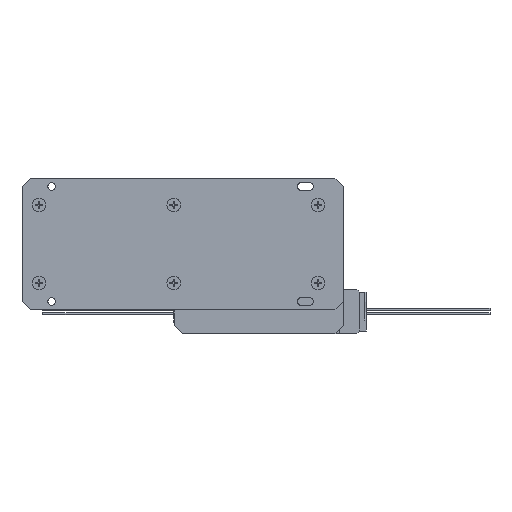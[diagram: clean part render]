
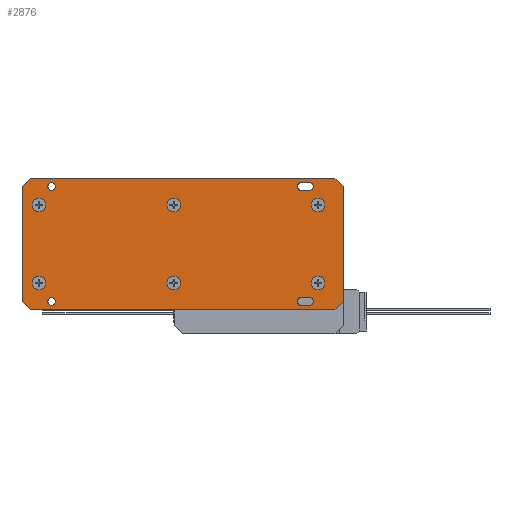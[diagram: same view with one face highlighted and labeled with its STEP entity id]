
A CAD part, front view. The second image highlights one B-rep face of the part: STEP entity #2876.
In plain terms, the highlighted planar face has unit normal (0, -1, 0).
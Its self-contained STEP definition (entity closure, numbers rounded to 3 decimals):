
#2876=ADVANCED_FACE('',(#6193,#6194,#6195,#6196,#6197,#6198,#6199,#6200,#6201,#6202,#6203),#6204,.F.);
#6193=FACE_OUTER_BOUND('',#10417,.T.);
#6194=FACE_BOUND('',#10418,.T.);
#6195=FACE_BOUND('',#10419,.T.);
#6196=FACE_BOUND('',#10420,.T.);
#6197=FACE_BOUND('',#10421,.T.);
#6198=FACE_BOUND('',#10422,.T.);
#6199=FACE_BOUND('',#10423,.T.);
#6200=FACE_BOUND('',#10424,.T.);
#6201=FACE_BOUND('',#10425,.T.);
#6202=FACE_BOUND('',#10426,.T.);
#6203=FACE_BOUND('',#10427,.T.);
#6204=PLANE('',#10428);
#10417=EDGE_LOOP('',(#22860,#22861,#22862,#22863,#22864,#22865,#22866,#22867));
#10418=EDGE_LOOP('',(#22868,#22869,#22870,#22871));
#10419=EDGE_LOOP('',(#22872,#22873,#22874,#22875));
#10420=EDGE_LOOP('',(#22876));
#10421=EDGE_LOOP('',(#22877));
#10422=EDGE_LOOP('',(#22878));
#10423=EDGE_LOOP('',(#22879));
#10424=EDGE_LOOP('',(#22880));
#10425=EDGE_LOOP('',(#22881));
#10426=EDGE_LOOP('',(#22882));
#10427=EDGE_LOOP('',(#22883));
#10428=AXIS2_PLACEMENT_3D('',#22884,#22885,#22886);
#22860=ORIENTED_EDGE('',*,*,#33007,.F.);
#22861=ORIENTED_EDGE('',*,*,#32844,.F.);
#22862=ORIENTED_EDGE('',*,*,#33017,.F.);
#22863=ORIENTED_EDGE('',*,*,#32759,.F.);
#22864=ORIENTED_EDGE('',*,*,#33015,.F.);
#22865=ORIENTED_EDGE('',*,*,#33012,.F.);
#22866=ORIENTED_EDGE('',*,*,#32787,.F.);
#22867=ORIENTED_EDGE('',*,*,#33010,.F.);
#22868=ORIENTED_EDGE('',*,*,#33019,.T.);
#22869=ORIENTED_EDGE('',*,*,#33034,.T.);
#22870=ORIENTED_EDGE('',*,*,#33026,.T.);
#22871=ORIENTED_EDGE('',*,*,#33023,.T.);
#22872=ORIENTED_EDGE('',*,*,#32855,.T.);
#22873=ORIENTED_EDGE('',*,*,#32781,.T.);
#22874=ORIENTED_EDGE('',*,*,#33032,.T.);
#22875=ORIENTED_EDGE('',*,*,#33029,.T.);
#22876=ORIENTED_EDGE('',*,*,#33036,.T.);
#22877=ORIENTED_EDGE('',*,*,#32791,.T.);
#22878=ORIENTED_EDGE('',*,*,#32776,.F.);
#22879=ORIENTED_EDGE('',*,*,#33038,.F.);
#22880=ORIENTED_EDGE('',*,*,#33039,.F.);
#22881=ORIENTED_EDGE('',*,*,#33040,.F.);
#22882=ORIENTED_EDGE('',*,*,#33041,.F.);
#22883=ORIENTED_EDGE('',*,*,#33042,.F.);
#22884=CARTESIAN_POINT('',(0.,0.0,0.0));
#22885=DIRECTION('',(-0.0,1.0,0.0));
#22886=DIRECTION('',(1.0,0.0,0.0));
#32759=EDGE_CURVE('',#40138,#40139,#40140,.T.);
#32776=EDGE_CURVE('',#40172,#40172,#40173,.T.);
#32781=EDGE_CURVE('',#40182,#40183,#40184,.T.);
#32787=EDGE_CURVE('',#40193,#40194,#40195,.T.);
#32791=EDGE_CURVE('',#40201,#40201,#40202,.T.);
#32844=EDGE_CURVE('',#40302,#40303,#40304,.T.);
#32855=EDGE_CURVE('',#40323,#40182,#40324,.T.);
#33007=EDGE_CURVE('',#40303,#40563,#40564,.T.);
#33010=EDGE_CURVE('',#40563,#40193,#40568,.T.);
#33012=EDGE_CURVE('',#40194,#40570,#40571,.T.);
#33015=EDGE_CURVE('',#40570,#40138,#40575,.T.);
#33017=EDGE_CURVE('',#40139,#40302,#40577,.T.);
#33019=EDGE_CURVE('',#40579,#40580,#40581,.T.);
#33023=EDGE_CURVE('',#40587,#40579,#40588,.T.);
#33026=EDGE_CURVE('',#40592,#40587,#40593,.T.);
#33029=EDGE_CURVE('',#40597,#40323,#40598,.T.);
#33032=EDGE_CURVE('',#40183,#40597,#40602,.T.);
#33034=EDGE_CURVE('',#40580,#40592,#40604,.T.);
#33036=EDGE_CURVE('',#40606,#40606,#40607,.T.);
#33038=EDGE_CURVE('',#40610,#40610,#40611,.T.);
#33039=EDGE_CURVE('',#40612,#40612,#40613,.T.);
#33040=EDGE_CURVE('',#40614,#40614,#40615,.T.);
#33041=EDGE_CURVE('',#40616,#40616,#40617,.T.);
#33042=EDGE_CURVE('',#40618,#40618,#40619,.T.);
#40138=VERTEX_POINT('',#51459);
#40139=VERTEX_POINT('',#51460);
#40140=LINE('',#51461,#51462);
#40172=VERTEX_POINT('',#51505);
#40173=CIRCLE('',#51506,4.0);
#40182=VERTEX_POINT('',#51519);
#40183=VERTEX_POINT('',#51520);
#40184=CIRCLE('',#51521,2.25);
#40193=VERTEX_POINT('',#51534);
#40194=VERTEX_POINT('',#51535);
#40195=LINE('',#51536,#51537);
#40201=VERTEX_POINT('',#51546);
#40202=CIRCLE('',#51547,2.25);
#40302=VERTEX_POINT('',#51691);
#40303=VERTEX_POINT('',#51692);
#40304=LINE('',#51693,#51694);
#40323=VERTEX_POINT('',#51721);
#40324=LINE('',#51722,#51723);
#40563=VERTEX_POINT('',#52089);
#40564=LINE('',#52090,#52091);
#40568=LINE('',#52097,#52098);
#40570=VERTEX_POINT('',#52101);
#40571=LINE('',#52102,#52103);
#40575=LINE('',#52109,#52110);
#40577=LINE('',#52113,#52114);
#40579=VERTEX_POINT('',#52117);
#40580=VERTEX_POINT('',#52118);
#40581=LINE('',#52119,#52120);
#40587=VERTEX_POINT('',#52129);
#40588=CIRCLE('',#52130,2.25);
#40592=VERTEX_POINT('',#52135);
#40593=LINE('',#52136,#52137);
#40597=VERTEX_POINT('',#52143);
#40598=CIRCLE('',#52144,2.25);
#40602=LINE('',#52149,#52150);
#40604=CIRCLE('',#52153,2.25);
#40606=VERTEX_POINT('',#52155);
#40607=CIRCLE('',#52156,2.25);
#40610=VERTEX_POINT('',#52159);
#40611=CIRCLE('',#52160,4.0);
#40612=VERTEX_POINT('',#52161);
#40613=CIRCLE('',#52162,4.0);
#40614=VERTEX_POINT('',#52163);
#40615=CIRCLE('',#52164,4.0);
#40616=VERTEX_POINT('',#52165);
#40617=CIRCLE('',#52166,4.0);
#40618=VERTEX_POINT('',#52167);
#40619=CIRCLE('',#52168,4.0);
#51459=CARTESIAN_POINT('',(157.8,0.0,34.0));
#51460=CARTESIAN_POINT('',(157.8,0.0,-34.0));
#51461=CARTESIAN_POINT('',(157.8,0.0,34.0));
#51462=VECTOR('',#63157,1.0);
#51505=CARTESIAN_POINT('',(-22.2,0.0,19.0));
#51506=AXIS2_PLACEMENT_3D('',#63184,#63185,#63186);
#51519=CARTESIAN_POINT('',(132.8,0.0,31.75));
#51520=CARTESIAN_POINT('',(132.8,0.0,36.25));
#51521=AXIS2_PLACEMENT_3D('',#63191,#63192,#63193);
#51534=CARTESIAN_POINT('',(-32.2,0.0,34.0));
#51535=CARTESIAN_POINT('',(-27.2,0.0,39.0));
#51536=CARTESIAN_POINT('',(-32.2,0.0,34.0));
#51537=VECTOR('',#63201,1.0);
#51546=CARTESIAN_POINT('',(-12.45,0.0,34.0));
#51547=AXIS2_PLACEMENT_3D('',#63205,#63206,#63207);
#51691=CARTESIAN_POINT('',(152.8,0.0,-39.0));
#51692=CARTESIAN_POINT('',(-27.2,0.0,-39.0));
#51693=CARTESIAN_POINT('',(152.8,0.0,-39.0));
#51694=VECTOR('',#63276,1.0);
#51721=CARTESIAN_POINT('',(137.8,0.0,31.75));
#51722=CARTESIAN_POINT('',(137.8,0.0,31.75));
#51723=VECTOR('',#63291,1.0);
#52089=CARTESIAN_POINT('',(-32.2,0.0,-34.0));
#52090=CARTESIAN_POINT('',(-27.2,0.0,-39.0));
#52091=VECTOR('',#63491,1.0);
#52097=CARTESIAN_POINT('',(-32.2,0.0,-34.0));
#52098=VECTOR('',#63494,1.0);
#52101=CARTESIAN_POINT('',(152.8,0.0,39.0));
#52102=CARTESIAN_POINT('',(-27.2,0.0,39.0));
#52103=VECTOR('',#63496,1.0);
#52109=CARTESIAN_POINT('',(152.8,0.0,39.0));
#52110=VECTOR('',#63499,1.0);
#52113=CARTESIAN_POINT('',(157.8,0.0,-34.0));
#52114=VECTOR('',#63501,1.0);
#52117=CARTESIAN_POINT('',(137.8,0.0,-36.25));
#52118=CARTESIAN_POINT('',(132.8,0.0,-36.25));
#52119=CARTESIAN_POINT('',(137.8,0.0,-36.25));
#52120=VECTOR('',#63503,1.0);
#52129=CARTESIAN_POINT('',(137.8,0.0,-31.75));
#52130=AXIS2_PLACEMENT_3D('',#63507,#63508,#63509);
#52135=CARTESIAN_POINT('',(132.8,0.0,-31.75));
#52136=CARTESIAN_POINT('',(132.8,0.0,-31.75));
#52137=VECTOR('',#63514,1.0);
#52143=CARTESIAN_POINT('',(137.8,0.0,36.25));
#52144=AXIS2_PLACEMENT_3D('',#63517,#63518,#63519);
#52149=CARTESIAN_POINT('',(132.8,0.0,36.25));
#52150=VECTOR('',#63524,1.0);
#52153=AXIS2_PLACEMENT_3D('',#63526,#63527,#63528);
#52155=CARTESIAN_POINT('',(-12.45,0.0,-34.0));
#52156=AXIS2_PLACEMENT_3D('',#63532,#63533,#63534);
#52159=CARTESIAN_POINT('',(57.5,0.0,19.0));
#52160=AXIS2_PLACEMENT_3D('',#63538,#63539,#63540);
#52161=CARTESIAN_POINT('',(-22.2,0.0,-27.0));
#52162=AXIS2_PLACEMENT_3D('',#63541,#63542,#63543);
#52163=CARTESIAN_POINT('',(57.5,0.0,-27.0));
#52164=AXIS2_PLACEMENT_3D('',#63544,#63545,#63546);
#52165=CARTESIAN_POINT('',(142.8,0.0,19.0));
#52166=AXIS2_PLACEMENT_3D('',#63547,#63548,#63549);
#52167=CARTESIAN_POINT('',(142.8,0.0,-27.0));
#52168=AXIS2_PLACEMENT_3D('',#63550,#63551,#63552);
#63157=DIRECTION('',(0.0,0.0,-1.0));
#63184=CARTESIAN_POINT('',(-22.2,0.0,23.0));
#63185=DIRECTION('',(0.0,-1.0,0.0));
#63186=DIRECTION('',(0.0,0.0,-1.0));
#63191=CARTESIAN_POINT('',(132.8,0.0,34.0));
#63192=DIRECTION('',(-0.0,1.0,0.0));
#63193=DIRECTION('',(1.0,0.0,0.0));
#63201=DIRECTION('',(0.707,0.0,0.707));
#63205=CARTESIAN_POINT('',(-14.7,0.0,34.0));
#63206=DIRECTION('',(-0.0,1.0,0.0));
#63207=DIRECTION('',(1.0,0.0,0.0));
#63276=DIRECTION('',(-1.0,0.0,0.0));
#63291=DIRECTION('',(-1.0,0.0,0.0));
#63491=DIRECTION('',(-0.707,0.0,0.707));
#63494=DIRECTION('',(0.0,0.0,1.0));
#63496=DIRECTION('',(1.0,0.0,0.0));
#63499=DIRECTION('',(0.707,0.0,-0.707));
#63501=DIRECTION('',(-0.707,0.0,-0.707));
#63503=DIRECTION('',(-1.0,0.0,0.0));
#63507=CARTESIAN_POINT('',(137.8,0.0,-34.0));
#63508=DIRECTION('',(-0.0,1.0,0.0));
#63509=DIRECTION('',(1.0,0.0,0.0));
#63514=DIRECTION('',(1.0,0.0,0.0));
#63517=CARTESIAN_POINT('',(137.8,0.0,34.0));
#63518=DIRECTION('',(-0.0,1.0,0.0));
#63519=DIRECTION('',(1.0,0.0,0.0));
#63524=DIRECTION('',(1.0,0.0,0.0));
#63526=CARTESIAN_POINT('',(132.8,0.0,-34.0));
#63527=DIRECTION('',(-0.0,1.0,0.0));
#63528=DIRECTION('',(1.0,0.0,0.0));
#63532=CARTESIAN_POINT('',(-14.7,0.0,-34.0));
#63533=DIRECTION('',(-0.0,1.0,0.0));
#63534=DIRECTION('',(1.0,0.0,0.0));
#63538=CARTESIAN_POINT('',(57.5,0.0,23.0));
#63539=DIRECTION('',(0.0,-1.0,0.0));
#63540=DIRECTION('',(0.0,0.0,-1.0));
#63541=CARTESIAN_POINT('',(-22.2,0.0,-23.0));
#63542=DIRECTION('',(0.0,-1.0,0.0));
#63543=DIRECTION('',(0.0,0.0,-1.0));
#63544=CARTESIAN_POINT('',(57.5,0.0,-23.0));
#63545=DIRECTION('',(0.0,-1.0,0.0));
#63546=DIRECTION('',(0.0,0.0,-1.0));
#63547=CARTESIAN_POINT('',(142.8,0.0,23.0));
#63548=DIRECTION('',(0.0,-1.0,0.0));
#63549=DIRECTION('',(0.0,0.0,-1.0));
#63550=CARTESIAN_POINT('',(142.8,0.0,-23.0));
#63551=DIRECTION('',(0.0,-1.0,0.0));
#63552=DIRECTION('',(0.0,0.0,-1.0));
